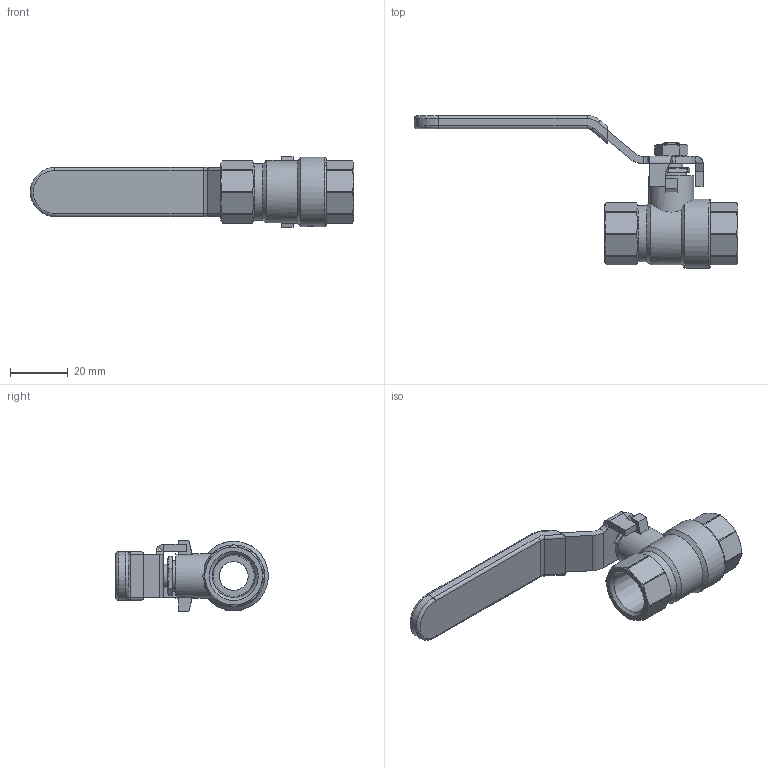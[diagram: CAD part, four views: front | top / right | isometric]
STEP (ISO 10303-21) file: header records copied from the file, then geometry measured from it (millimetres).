
FILE_DESCRIPTION((''),'2;1');
FILE_NAME('P:\Fastrack\53972_CRANE 3D\Fig100YL\100YL-38\100YL-38.stp','2011-01-27T16:29:09',('btaylor'),(''),'Autodesk Inventor 2008','Autodesk Inventor 2008','');
FILE_SCHEMA(('AUTOMOTIVE_DESIGN { 1 0 10303 214 1 1 1 1 }'));
Length unit declared in the file: millimetre
Products named in the file (1): 100YL-38
Bounding box: 112 x 52.91 x 24.5 mm (x, y, z)
Volume: 20842.8 mm3; surface area: 18883.2 mm2
Topology: 6 solids, 6 shells, 1510 faces, 3997 edges, 2640 vertices
Faces by surface type: plane 816, bspline 528, cylinder 91, cone 59, torus 13, sphere 3
Full cylindrical faces by diameter (mm): 8 x1, 8.1 x2, 8.3 x1, 9 x1, 9.5 x1, 10 x3, 10.5 x1, 10.6 x1, 10.75 x1, 15.2 x2, 15.5 x1, 16 x4, 18.5 x1, 19.5 x1, 20 x1, 20.5 x1, 24 x1
Entity records: 102254 total; most frequent: CARTESIAN_POINT 67153, ORIENTED_EDGE 7826, DIRECTION 5014, EDGE_CURVE 3913, VERTEX_POINT 2609, VECTOR 2466, LINE 2466, EDGE_LOOP 1728
